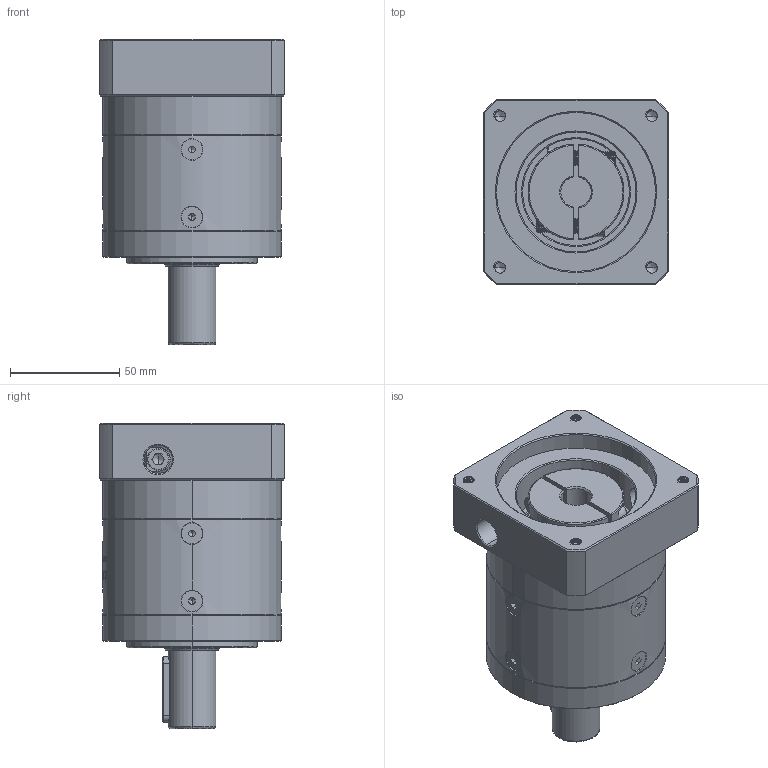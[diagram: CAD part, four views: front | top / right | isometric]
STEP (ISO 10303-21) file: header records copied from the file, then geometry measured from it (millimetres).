
FILE_DESCRIPTION (( 'STEP AP214' ), '1' );
FILE_NAME ('ZE80-D22-L1-14-73-69.5X69.5-M6.step', '2022-05-08T05:53:20', ( '' ), ( 'Microsoft' ), 'SwSTEP 2.0', 'SolidWorks 2016', '' );
FILE_SCHEMA (( 'AUTOMOTIVE_DESIGN' ));
Length unit declared in the file: millimetre
Products named in the file (1): ZE80-D22-L1-14-73-69.5X69.5-M6
Bounding box: 85 x 85 x 140 mm (x, y, z)
Volume: 519796.8 mm3; surface area: 85637 mm2
Topology: 13 solids, 13 shells, 2064 faces, 5379 edges, 3404 vertices
Faces by surface type: plane 891, cylinder 500, bspline 332, cone 324, torus 17
Entity records: 118471 total; most frequent: CARTESIAN_POINT 49483, ORIENTED_EDGE 10682, DIRECTION 8208, EDGE_CURVE 5341, VERTEX_POINT 3404, VECTOR 2860, LINE 2860, AXIS2_PLACEMENT_3D 2674
